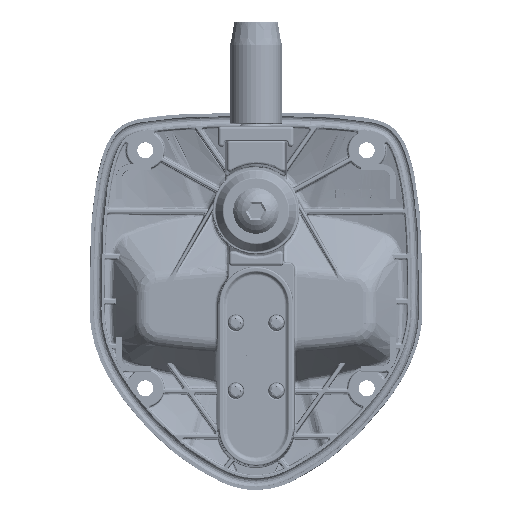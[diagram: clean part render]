
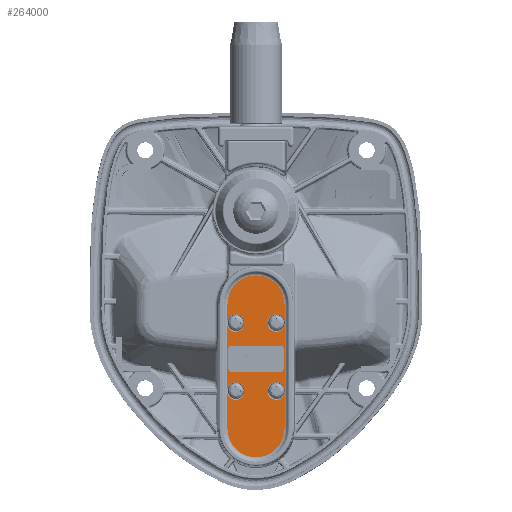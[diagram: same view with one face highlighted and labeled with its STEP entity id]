
A CAD part, top view. The second image highlights one B-rep face of the part: STEP entity #264000.
In plain terms, the highlighted planar face has unit normal (0, 0, 1) as drawn and (0, 1, 0) by its records, which use the part's own axes.
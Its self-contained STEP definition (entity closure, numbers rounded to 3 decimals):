
#248050=CARTESIAN_POINT('',(14.141,4.,9.829));
#248056=CARTESIAN_POINT('',(11.859,4.,9.829));
#248061=CARTESIAN_POINT('',(37.541,4.,9.829));
#248067=CARTESIAN_POINT('',(35.259,4.,9.829));
#248088=CARTESIAN_POINT('',(13.,4.,7.));
#248089=DIRECTION('',(0.,-1.,0.));
#248090=DIRECTION('',(-0.374,0.,0.927));
#248091=AXIS2_PLACEMENT_3D('',#248088,#248089,#248090);
#248104=DIRECTION('',(1.,0.,0.));
#248105=VECTOR('',#248104,21.118);
#248106=CARTESIAN_POINT('',(14.141,4.,-9.829));
#248107=LINE('',#248106,#248105);
#248111=DIRECTION('',(1.,0.,0.));
#248112=VECTOR('',#248111,5.459);
#248113=CARTESIAN_POINT('',(37.541,4.,-9.829));
#248114=LINE('',#248113,#248112);
#248118=CARTESIAN_POINT('',(43.,4.,0.));
#248119=DIRECTION('',(0.,-1.,0.));
#248120=DIRECTION('',(0.,0.,-1.));
#248121=AXIS2_PLACEMENT_3D('',#248118,#248119,#248120);
#248126=DIRECTION('',(-1.,0.,0.));
#248127=VECTOR('',#248126,5.459);
#248128=CARTESIAN_POINT('',(43.,4.,9.829));
#248129=LINE('',#248128,#248127);
#248133=DIRECTION('',(-1.,0.,0.));
#248134=VECTOR('',#248133,21.118);
#248135=CARTESIAN_POINT('',(35.259,4.,9.829));
#248136=LINE('',#248135,#248134);
#248140=DIRECTION('',(-1.,0.,0.));
#248141=VECTOR('',#248140,11.859);
#248142=CARTESIAN_POINT('',(11.859,4.,9.829));
#248143=LINE('',#248142,#248141);
#248147=CARTESIAN_POINT('',(0.,4.,0.));
#248148=DIRECTION('',(0.,-1.,0.));
#248149=DIRECTION('',(0.,0.,1.));
#248150=AXIS2_PLACEMENT_3D('',#248147,#248148,#248149);
#248155=DIRECTION('',(1.,0.,0.));
#248156=VECTOR('',#248155,11.859);
#248157=CARTESIAN_POINT('',(0.,4.,-9.829));
#248158=LINE('',#248157,#248156);
#248162=DIRECTION('',(0.,0.,-1.));
#248163=VECTOR('',#248162,17.);
#248164=CARTESIAN_POINT('',(28.616,4.,8.5));
#248165=LINE('',#248164,#248163);
#248169=DIRECTION('',(-1.,0.,0.));
#248170=VECTOR('',#248169,7.);
#248171=CARTESIAN_POINT('',(27.616,4.,-9.5));
#248172=LINE('',#248171,#248170);
#248176=DIRECTION('',(0.,0.,1.));
#248177=VECTOR('',#248176,17.);
#248178=CARTESIAN_POINT('',(19.616,4.,-8.5));
#248179=LINE('',#248178,#248177);
#248183=DIRECTION('',(1.,0.,0.));
#248184=VECTOR('',#248183,7.);
#248185=CARTESIAN_POINT('',(20.616,4.,9.5));
#248186=LINE('',#248185,#248184);
#248198=CARTESIAN_POINT('',(13.,4.,-7.));
#248199=DIRECTION('',(0.,-1.,0.));
#248200=DIRECTION('',(0.374,0.,-0.927));
#248201=AXIS2_PLACEMENT_3D('',#248198,#248199,#248200);
#248295=CARTESIAN_POINT('',(11.859,4.,-9.829));
#248301=CARTESIAN_POINT('',(14.141,4.,-9.829));
#248314=CARTESIAN_POINT('',(35.259,4.,-9.829));
#248320=CARTESIAN_POINT('',(37.541,4.,-9.829));
#248349=CARTESIAN_POINT('',(36.4,4.,-7.));
#248350=DIRECTION('',(0.,-1.,0.));
#248351=DIRECTION('',(0.374,0.,-0.927));
#248352=AXIS2_PLACEMENT_3D('',#248349,#248350,#248351);
#248757=CARTESIAN_POINT('',(36.4,4.,7.));
#248758=DIRECTION('',(0.,-1.,0.));
#248759=DIRECTION('',(-0.374,0.,0.927));
#248760=AXIS2_PLACEMENT_3D('',#248757,#248758,#248759);
#259862=CARTESIAN_POINT('',(27.616,4.,8.5));
#259863=DIRECTION('',(0.,-1.,0.));
#259864=DIRECTION('',(1.,0.,0.));
#259865=AXIS2_PLACEMENT_3D('',#259862,#259863,#259864);
#261653=CARTESIAN_POINT('',(20.616,4.,8.5));
#261654=DIRECTION('',(0.,-1.,0.));
#261655=DIRECTION('',(0.,0.,1.));
#261656=AXIS2_PLACEMENT_3D('',#261653,#261654,#261655);
#261675=CARTESIAN_POINT('',(20.616,4.,-8.5));
#261676=DIRECTION('',(0.,-1.,0.));
#261677=DIRECTION('',(-1.,0.,0.));
#261678=AXIS2_PLACEMENT_3D('',#261675,#261676,#261677);
#261697=CARTESIAN_POINT('',(27.616,4.,-8.5));
#261698=DIRECTION('',(0.,-1.,0.));
#261699=DIRECTION('',(0.,0.,-1.));
#261700=AXIS2_PLACEMENT_3D('',#261697,#261698,#261699);
#261789=CARTESIAN_POINT('',(43.,4.,-9.829));
#261790=CARTESIAN_POINT('',(43.,4.,9.829));
#261791=VERTEX_POINT('',#261789);
#261792=VERTEX_POINT('',#261790);
#261797=CARTESIAN_POINT('',(0.,4.,9.829));
#261798=CARTESIAN_POINT('',(0.,4.,-9.829));
#261799=VERTEX_POINT('',#261797);
#261800=VERTEX_POINT('',#261798);
#261823=VERTEX_POINT('',#248295);
#261824=VERTEX_POINT('',#248301);
#261830=VERTEX_POINT('',#248050);
#261831=VERTEX_POINT('',#248056);
#261839=VERTEX_POINT('',#248061);
#261840=VERTEX_POINT('',#248067);
#261848=VERTEX_POINT('',#248314);
#261849=VERTEX_POINT('',#248320);
#262927=CARTESIAN_POINT('',(28.616,4.,8.5));
#262928=VERTEX_POINT('',#262927);
#262929=CARTESIAN_POINT('',(27.616,4.,9.5));
#262930=VERTEX_POINT('',#262929);
#262935=CARTESIAN_POINT('',(27.616,4.,-9.5));
#262936=VERTEX_POINT('',#262935);
#262937=CARTESIAN_POINT('',(28.616,4.,-8.5));
#262938=VERTEX_POINT('',#262937);
#262943=CARTESIAN_POINT('',(19.616,4.,-8.5));
#262944=VERTEX_POINT('',#262943);
#262945=CARTESIAN_POINT('',(20.616,4.,-9.5));
#262946=VERTEX_POINT('',#262945);
#262951=CARTESIAN_POINT('',(20.616,4.,9.5));
#262952=VERTEX_POINT('',#262951);
#262953=CARTESIAN_POINT('',(19.616,4.,8.5));
#262954=VERTEX_POINT('',#262953);
#263955=CARTESIAN_POINT('',(0.,4.,0.));
#263956=DIRECTION('',(0.,1.,0.));
#263957=DIRECTION('',(1.,0.,0.));
#263958=AXIS2_PLACEMENT_3D('',#263955,#263956,#263957);
#263959=PLANE('',#263958);
#263961=ORIENTED_EDGE('',*,*,#263960,.F.);
#263963=ORIENTED_EDGE('',*,*,#263962,.T.);
#263965=ORIENTED_EDGE('',*,*,#263964,.F.);
#263967=ORIENTED_EDGE('',*,*,#263966,.T.);
#263969=ORIENTED_EDGE('',*,*,#263968,.T.);
#263970=ORIENTED_EDGE('',*,*,#263857,.T.);
#263972=ORIENTED_EDGE('',*,*,#263971,.F.);
#263973=ORIENTED_EDGE('',*,*,#263853,.T.);
#263974=ORIENTED_EDGE('',*,*,#263935,.F.);
#263975=ORIENTED_EDGE('',*,*,#263864,.T.);
#263977=ORIENTED_EDGE('',*,*,#263976,.T.);
#263979=ORIENTED_EDGE('',*,*,#263978,.T.);
#263980=EDGE_LOOP('',(#263961,#263963,#263965,#263967,#263969,#263970,#263972,
#263973,#263974,#263975,#263977,#263979));
#263981=FACE_OUTER_BOUND('',#263980,.F.);
#263983=ORIENTED_EDGE('',*,*,#263982,.T.);
#263985=ORIENTED_EDGE('',*,*,#263984,.F.);
#263987=ORIENTED_EDGE('',*,*,#263986,.T.);
#263989=ORIENTED_EDGE('',*,*,#263988,.F.);
#263991=ORIENTED_EDGE('',*,*,#263990,.T.);
#263993=ORIENTED_EDGE('',*,*,#263992,.F.);
#263995=ORIENTED_EDGE('',*,*,#263994,.T.);
#263997=ORIENTED_EDGE('',*,*,#263996,.F.);
#263998=EDGE_LOOP('',(#263983,#263985,#263987,#263989,#263991,#263993,#263995,
#263997));
#263999=FACE_BOUND('',#263998,.F.);
#264000=ADVANCED_FACE('',(#263981,#263999),#263959,.T.);
#248092=CIRCLE('',#248091,3.05);
#248122=CIRCLE('',#248121,9.829);
#248151=CIRCLE('',#248150,9.829);
#248202=CIRCLE('',#248201,3.05);
#248353=CIRCLE('',#248352,3.05);
#248761=CIRCLE('',#248760,3.05);
#259866=CIRCLE('',#259865,1.);
#261657=CIRCLE('',#261656,1.);
#261679=CIRCLE('',#261678,1.);
#261701=CIRCLE('',#261700,1.);
#263853=EDGE_CURVE('',#261840,#261830,#248136,.T.);
#263857=EDGE_CURVE('',#261792,#261839,#248129,.T.);
#263864=EDGE_CURVE('',#261831,#261799,#248143,.T.);
#263935=EDGE_CURVE('',#261831,#261830,#248092,.T.);
#263960=EDGE_CURVE('',#261824,#261823,#248202,.T.);
#263962=EDGE_CURVE('',#261824,#261848,#248107,.T.);
#263964=EDGE_CURVE('',#261849,#261848,#248353,.T.);
#263966=EDGE_CURVE('',#261849,#261791,#248114,.T.);
#263968=EDGE_CURVE('',#261791,#261792,#248122,.T.);
#263971=EDGE_CURVE('',#261840,#261839,#248761,.T.);
#263976=EDGE_CURVE('',#261799,#261800,#248151,.T.);
#263978=EDGE_CURVE('',#261800,#261823,#248158,.T.);
#263982=EDGE_CURVE('',#262928,#262938,#248165,.T.);
#263984=EDGE_CURVE('',#262936,#262938,#261701,.T.);
#263986=EDGE_CURVE('',#262936,#262946,#248172,.T.);
#263988=EDGE_CURVE('',#262944,#262946,#261679,.T.);
#263990=EDGE_CURVE('',#262944,#262954,#248179,.T.);
#263992=EDGE_CURVE('',#262952,#262954,#261657,.T.);
#263994=EDGE_CURVE('',#262952,#262930,#248186,.T.);
#263996=EDGE_CURVE('',#262928,#262930,#259866,.T.);
